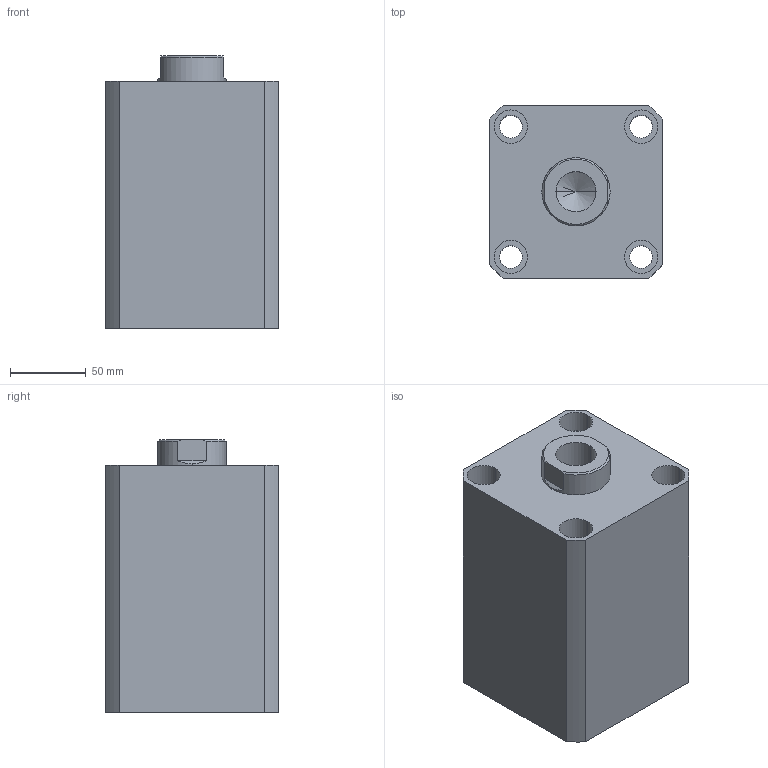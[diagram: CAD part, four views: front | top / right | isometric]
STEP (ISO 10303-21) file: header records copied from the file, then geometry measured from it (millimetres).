
FILE_DESCRIPTION (( 'STEP AP203' ), '1' );
FILE_NAME ('HTB-SDMB80-85N.STEP', '2019-10-09T06:12:33', ( '微软用户' ), ( '微软中国' ), 'SwSTEP 2.0', 'SolidWorks 2012', '' );
FILE_SCHEMA (( 'CONFIG_CONTROL_DESIGN' ));
Length unit declared in the file: millimetre
Products named in the file (3): HTB-SDMB80-85掛极; HTB-SDMB80-85N活塞杆; HTB-SDMB80-85N
Assembly tree (2 placements, depth 2):
  HTB-SDMB80-85N
    HTB-SDMB80-85掛极
    HTB-SDMB80-85N活塞杆
Bounding box: 114 x 114 x 180 mm (x, y, z)
Volume: 1664157.5 mm3; surface area: 209468.3 mm2
Topology: 2 solids, 2 shells, 137 faces, 331 edges, 217 vertices
Faces by surface type: plane 65, cylinder 46, bspline 16, torus 6, cone 4
Entity records: 5070 total; most frequent: CARTESIAN_POINT 1576, ORIENTED_EDGE 658, DIRECTION 647, EDGE_CURVE 329, AXIS2_PLACEMENT_3D 232, VERTEX_POINT 217, LINE 183, VECTOR 183
